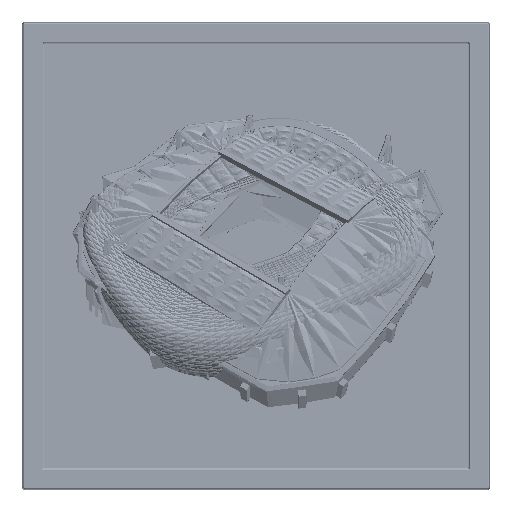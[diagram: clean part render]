
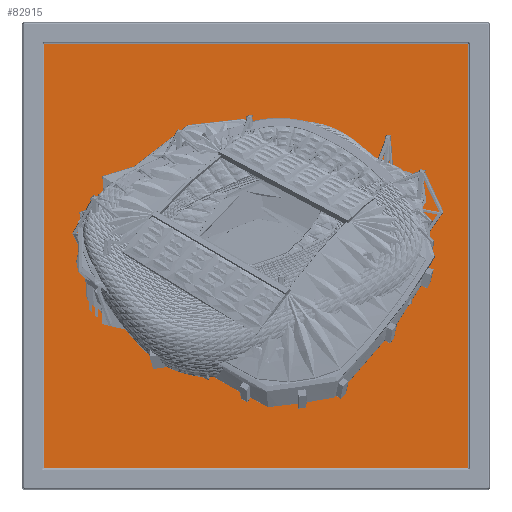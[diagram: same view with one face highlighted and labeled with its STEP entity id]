
A CAD part, top view. The second image highlights one B-rep face of the part: STEP entity #82915.
In plain terms, the highlighted planar face has unit normal (0, 0, 1).
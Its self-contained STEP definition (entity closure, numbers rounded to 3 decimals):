
#82300=CARTESIAN_POINT('',(0.,10.,2.238));
#82301=DIRECTION('',(0.,0.,-1.));
#82302=DIRECTION('',(1.,0.,0.));
#82303=AXIS2_PLACEMENT_3D('',#82300,#82301,#82302);
#82308=CARTESIAN_POINT('',(0.,10.,2.238));
#82309=DIRECTION('',(0.,0.,-1.));
#82310=DIRECTION('',(-1.,0.,0.));
#82311=AXIS2_PLACEMENT_3D('',#82308,#82309,#82310);
#82316=CARTESIAN_POINT('',(0.,65.,2.238));
#82317=DIRECTION('',(0.,0.,-1.));
#82318=DIRECTION('',(1.,0.,0.));
#82319=AXIS2_PLACEMENT_3D('',#82316,#82317,#82318);
#82324=CARTESIAN_POINT('',(0.,65.,2.238));
#82325=DIRECTION('',(0.,0.,-1.));
#82326=DIRECTION('',(-1.,0.,0.));
#82327=AXIS2_PLACEMENT_3D('',#82324,#82325,#82326);
#82332=CARTESIAN_POINT('',(-55.,10.,
2.238));
#82333=DIRECTION('',(0.,0.,-1.));
#82334=DIRECTION('',(1.,0.,0.));
#82335=AXIS2_PLACEMENT_3D('',#82332,#82333,#82334);
#82340=CARTESIAN_POINT('',(-55.,10.,
2.238));
#82341=DIRECTION('',(0.,0.,-1.));
#82342=DIRECTION('',(-1.,0.,0.));
#82343=AXIS2_PLACEMENT_3D('',#82340,#82341,#82342);
#82348=CARTESIAN_POINT('',(0.,-50.,2.238));
#82349=DIRECTION('',(0.,0.,-1.));
#82350=DIRECTION('',(1.,0.,0.));
#82351=AXIS2_PLACEMENT_3D('',#82348,#82349,#82350);
#82356=CARTESIAN_POINT('',(0.,-50.,2.238));
#82357=DIRECTION('',(0.,0.,-1.));
#82358=DIRECTION('',(-1.,0.,0.));
#82359=AXIS2_PLACEMENT_3D('',#82356,#82357,#82358);
#82364=CARTESIAN_POINT('',(55.,10.,2.238));
#82365=DIRECTION('',(0.,0.,-1.));
#82366=DIRECTION('',(1.,0.,0.));
#82367=AXIS2_PLACEMENT_3D('',#82364,#82365,#82366);
#82372=CARTESIAN_POINT('',(55.,10.,2.238));
#82373=DIRECTION('',(0.,0.,-1.));
#82374=DIRECTION('',(-1.,0.,0.));
#82375=AXIS2_PLACEMENT_3D('',#82372,#82373,#82374);
#82380=CARTESIAN_POINT('',(0.,-42.,2.238));
#82381=DIRECTION('',(0.,0.,-1.));
#82382=DIRECTION('',(1.,0.,0.));
#82383=AXIS2_PLACEMENT_3D('',#82380,#82381,#82382);
#82388=CARTESIAN_POINT('',(0.,-42.,2.238));
#82389=DIRECTION('',(0.,0.,-1.));
#82390=DIRECTION('',(-1.,0.,0.));
#82391=AXIS2_PLACEMENT_3D('',#82388,#82389,#82390);
#82396=CARTESIAN_POINT('',(-38.891,48.891,
2.238));
#82397=DIRECTION('',(0.,0.,-1.));
#82398=DIRECTION('',(1.,0.,0.));
#82399=AXIS2_PLACEMENT_3D('',#82396,#82397,#82398);
#82404=CARTESIAN_POINT('',(-38.891,48.891,
2.238));
#82405=DIRECTION('',(0.,0.,-1.));
#82406=DIRECTION('',(-1.,0.,0.));
#82407=AXIS2_PLACEMENT_3D('',#82404,#82405,#82406);
#82412=CARTESIAN_POINT('',(38.891,48.891,2.238));
#82413=DIRECTION('',(0.,0.,-1.));
#82414=DIRECTION('',(1.,0.,0.));
#82415=AXIS2_PLACEMENT_3D('',#82412,#82413,#82414);
#82420=CARTESIAN_POINT('',(38.891,48.891,2.238));
#82421=DIRECTION('',(0.,0.,-1.));
#82422=DIRECTION('',(-1.,0.,0.));
#82423=AXIS2_PLACEMENT_3D('',#82420,#82421,#82422);
#82428=CARTESIAN_POINT('',(-38.891,-28.891,
2.238));
#82429=DIRECTION('',(0.,0.,-1.));
#82430=DIRECTION('',(1.,0.,0.));
#82431=AXIS2_PLACEMENT_3D('',#82428,#82429,#82430);
#82436=CARTESIAN_POINT('',(-38.891,-28.891,
2.238));
#82437=DIRECTION('',(0.,0.,-1.));
#82438=DIRECTION('',(-1.,0.,0.));
#82439=AXIS2_PLACEMENT_3D('',#82436,#82437,#82438);
#82444=CARTESIAN_POINT('',(38.891,-28.891,
2.238));
#82445=DIRECTION('',(0.,0.,-1.));
#82446=DIRECTION('',(1.,0.,0.));
#82447=AXIS2_PLACEMENT_3D('',#82444,#82445,#82446);
#82452=CARTESIAN_POINT('',(38.891,-28.891,
2.238));
#82453=DIRECTION('',(0.,0.,-1.));
#82454=DIRECTION('',(-1.,0.,0.));
#82455=AXIS2_PLACEMENT_3D('',#82452,#82453,#82454);
#82460=DIRECTION('',(0.,-1.,0.));
#82461=VECTOR('',#82460,226.4);
#82462=CARTESIAN_POINT('',(-113.2,113.2,2.238));
#82463=LINE('',#82462,#82461);
#82467=DIRECTION('',(-1.,0.,0.));
#82468=VECTOR('',#82467,226.4);
#82469=CARTESIAN_POINT('',(113.2,113.2,2.238));
#82470=LINE('',#82469,#82468);
#82474=DIRECTION('',(0.,1.,0.));
#82475=VECTOR('',#82474,226.4);
#82476=CARTESIAN_POINT('',(113.2,-113.2,2.238));
#82477=LINE('',#82476,#82475);
#82481=DIRECTION('',(1.,0.,0.));
#82482=VECTOR('',#82481,226.4);
#82483=CARTESIAN_POINT('',(-113.2,-113.2,2.238));
#82484=LINE('',#82483,#82482);
#82654=CARTESIAN_POINT('',(42.5,10.,2.238));
#82655=CARTESIAN_POINT('',(-42.5,10.,2.238));
#82656=VERTEX_POINT('',#82654);
#82657=VERTEX_POINT('',#82655);
#82658=CARTESIAN_POINT('',(-113.2,113.2,2.238));
#82659=CARTESIAN_POINT('',(-113.2,-113.2,2.238));
#82660=VERTEX_POINT('',#82658);
#82661=VERTEX_POINT('',#82659);
#82662=CARTESIAN_POINT('',(113.2,-113.2,2.238));
#82663=VERTEX_POINT('',#82662);
#82664=CARTESIAN_POINT('',(113.2,113.2,2.238));
#82665=VERTEX_POINT('',#82664);
#82682=CARTESIAN_POINT('',(3.,65.,2.238));
#82683=CARTESIAN_POINT('',(-3.,65.,2.238));
#82684=VERTEX_POINT('',#82682);
#82685=VERTEX_POINT('',#82683);
#82686=CARTESIAN_POINT('',(-52.,10.,
2.238));
#82687=CARTESIAN_POINT('',(-58.,10.,
2.238));
#82688=VERTEX_POINT('',#82686);
#82689=VERTEX_POINT('',#82687);
#82690=CARTESIAN_POINT('',(3.,-50.,2.238));
#82691=CARTESIAN_POINT('',(-3.,-50.,2.238));
#82692=VERTEX_POINT('',#82690);
#82693=VERTEX_POINT('',#82691);
#82694=CARTESIAN_POINT('',(58.,10.,2.238));
#82695=CARTESIAN_POINT('',(52.,10.,2.238));
#82696=VERTEX_POINT('',#82694);
#82697=VERTEX_POINT('',#82695);
#82718=CARTESIAN_POINT('',(2.,-42.,2.238));
#82719=CARTESIAN_POINT('',(-2.,-42.,2.238));
#82720=VERTEX_POINT('',#82718);
#82721=VERTEX_POINT('',#82719);
#82722=CARTESIAN_POINT('',(-35.891,48.891,
2.238));
#82723=CARTESIAN_POINT('',(-41.891,48.891,
2.238));
#82724=VERTEX_POINT('',#82722);
#82725=VERTEX_POINT('',#82723);
#82726=CARTESIAN_POINT('',(41.891,48.891,2.238));
#82727=CARTESIAN_POINT('',(35.891,48.891,2.238));
#82728=VERTEX_POINT('',#82726);
#82729=VERTEX_POINT('',#82727);
#82730=CARTESIAN_POINT('',(-35.891,-28.891,
2.238));
#82731=CARTESIAN_POINT('',(-41.891,-28.891,
2.238));
#82732=VERTEX_POINT('',#82730);
#82733=VERTEX_POINT('',#82731);
#82734=CARTESIAN_POINT('',(41.891,-28.891,
2.238));
#82735=CARTESIAN_POINT('',(35.891,-28.891,
2.238));
#82736=VERTEX_POINT('',#82734);
#82737=VERTEX_POINT('',#82735);
#82842=CARTESIAN_POINT('',(0.,0.,2.238));
#82843=DIRECTION('',(0.,0.,1.));
#82844=DIRECTION('',(1.,0.,0.));
#82845=AXIS2_PLACEMENT_3D('',#82842,#82843,#82844);
#82846=PLANE('',#82845);
#82848=ORIENTED_EDGE('',*,*,#82847,.F.);
#82850=ORIENTED_EDGE('',*,*,#82849,.F.);
#82852=ORIENTED_EDGE('',*,*,#82851,.F.);
#82854=ORIENTED_EDGE('',*,*,#82853,.F.);
#82855=EDGE_LOOP('',(#82848,#82850,#82852,#82854));
#82856=FACE_OUTER_BOUND('',#82855,.F.);
#82858=ORIENTED_EDGE('',*,*,#82857,.F.);
#82860=ORIENTED_EDGE('',*,*,#82859,.F.);
#82861=EDGE_LOOP('',(#82858,#82860));
#82862=FACE_BOUND('',#82861,.F.);
#82864=ORIENTED_EDGE('',*,*,#82863,.F.);
#82866=ORIENTED_EDGE('',*,*,#82865,.F.);
#82867=EDGE_LOOP('',(#82864,#82866));
#82868=FACE_BOUND('',#82867,.F.);
#82870=ORIENTED_EDGE('',*,*,#82869,.F.);
#82872=ORIENTED_EDGE('',*,*,#82871,.F.);
#82873=EDGE_LOOP('',(#82870,#82872));
#82874=FACE_BOUND('',#82873,.F.);
#82876=ORIENTED_EDGE('',*,*,#82875,.F.);
#82878=ORIENTED_EDGE('',*,*,#82877,.F.);
#82879=EDGE_LOOP('',(#82876,#82878));
#82880=FACE_BOUND('',#82879,.F.);
#82882=ORIENTED_EDGE('',*,*,#82881,.F.);
#82884=ORIENTED_EDGE('',*,*,#82883,.F.);
#82885=EDGE_LOOP('',(#82882,#82884));
#82886=FACE_BOUND('',#82885,.F.);
#82888=ORIENTED_EDGE('',*,*,#82887,.F.);
#82890=ORIENTED_EDGE('',*,*,#82889,.F.);
#82891=EDGE_LOOP('',(#82888,#82890));
#82892=FACE_BOUND('',#82891,.F.);
#82894=ORIENTED_EDGE('',*,*,#82893,.F.);
#82896=ORIENTED_EDGE('',*,*,#82895,.F.);
#82897=EDGE_LOOP('',(#82894,#82896));
#82898=FACE_BOUND('',#82897,.F.);
#82900=ORIENTED_EDGE('',*,*,#82899,.F.);
#82902=ORIENTED_EDGE('',*,*,#82901,.F.);
#82903=EDGE_LOOP('',(#82900,#82902));
#82904=FACE_BOUND('',#82903,.F.);
#82906=ORIENTED_EDGE('',*,*,#82905,.F.);
#82908=ORIENTED_EDGE('',*,*,#82907,.F.);
#82909=EDGE_LOOP('',(#82906,#82908));
#82910=FACE_BOUND('',#82909,.F.);
#82911=ORIENTED_EDGE('',*,*,#82822,.F.);
#82912=ORIENTED_EDGE('',*,*,#82836,.F.);
#82913=EDGE_LOOP('',(#82911,#82912));
#82914=FACE_BOUND('',#82913,.F.);
#82915=ADVANCED_FACE('',(#82856,#82862,#82868,#82874,#82880,#82886,#82892,
#82898,#82904,#82910,#82914),#82846,.T.);
#82304=CIRCLE('',#82303,42.5);
#82312=CIRCLE('',#82311,42.5);
#82320=CIRCLE('',#82319,3.);
#82328=CIRCLE('',#82327,3.);
#82336=CIRCLE('',#82335,3.);
#82344=CIRCLE('',#82343,3.);
#82352=CIRCLE('',#82351,3.);
#82360=CIRCLE('',#82359,3.);
#82368=CIRCLE('',#82367,3.);
#82376=CIRCLE('',#82375,3.);
#82384=CIRCLE('',#82383,2.);
#82392=CIRCLE('',#82391,2.);
#82400=CIRCLE('',#82399,3.);
#82408=CIRCLE('',#82407,3.);
#82416=CIRCLE('',#82415,3.);
#82424=CIRCLE('',#82423,3.);
#82432=CIRCLE('',#82431,3.);
#82440=CIRCLE('',#82439,3.);
#82448=CIRCLE('',#82447,3.);
#82456=CIRCLE('',#82455,3.);
#82822=EDGE_CURVE('',#82656,#82657,#82304,.T.);
#82836=EDGE_CURVE('',#82657,#82656,#82312,.T.);
#82847=EDGE_CURVE('',#82660,#82661,#82463,.T.);
#82849=EDGE_CURVE('',#82665,#82660,#82470,.T.);
#82851=EDGE_CURVE('',#82663,#82665,#82477,.T.);
#82853=EDGE_CURVE('',#82661,#82663,#82484,.T.);
#82857=EDGE_CURVE('',#82684,#82685,#82320,.T.);
#82859=EDGE_CURVE('',#82685,#82684,#82328,.T.);
#82863=EDGE_CURVE('',#82688,#82689,#82336,.T.);
#82865=EDGE_CURVE('',#82689,#82688,#82344,.T.);
#82869=EDGE_CURVE('',#82692,#82693,#82352,.T.);
#82871=EDGE_CURVE('',#82693,#82692,#82360,.T.);
#82875=EDGE_CURVE('',#82696,#82697,#82368,.T.);
#82877=EDGE_CURVE('',#82697,#82696,#82376,.T.);
#82881=EDGE_CURVE('',#82720,#82721,#82384,.T.);
#82883=EDGE_CURVE('',#82721,#82720,#82392,.T.);
#82887=EDGE_CURVE('',#82724,#82725,#82400,.T.);
#82889=EDGE_CURVE('',#82725,#82724,#82408,.T.);
#82893=EDGE_CURVE('',#82728,#82729,#82416,.T.);
#82895=EDGE_CURVE('',#82729,#82728,#82424,.T.);
#82899=EDGE_CURVE('',#82732,#82733,#82432,.T.);
#82901=EDGE_CURVE('',#82733,#82732,#82440,.T.);
#82905=EDGE_CURVE('',#82736,#82737,#82448,.T.);
#82907=EDGE_CURVE('',#82737,#82736,#82456,.T.);
